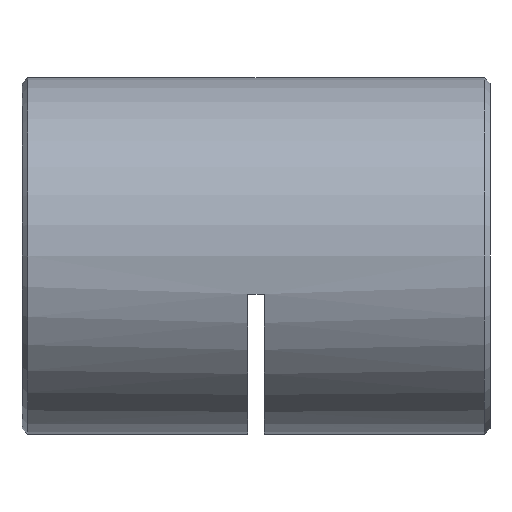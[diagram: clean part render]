
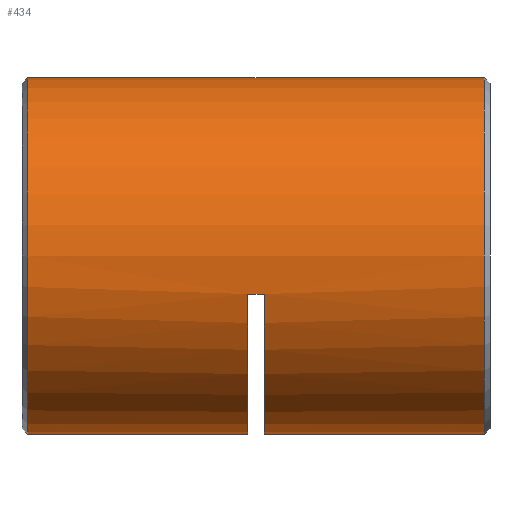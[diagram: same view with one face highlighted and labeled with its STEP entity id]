
A CAD part, left-side view. The second image highlights one B-rep face of the part: STEP entity #434.
In plain terms, the highlighted cylindrical face has radius 16 mm (diameter 32 mm), a partial arc.
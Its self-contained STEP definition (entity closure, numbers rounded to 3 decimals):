
#115 = DIRECTION ( 'NONE',  ( 0., -1., 0. ) ) ;
#170 = VERTEX_POINT ( 'NONE', #6002 ) ;
#274 = DIRECTION ( 'NONE',  ( 0., 0., 1. ) ) ;
#280 = VECTOR ( 'NONE', #640, 1000. ) ;
#434 = ADVANCED_FACE ( 'NONE', ( #3212 ), #2043, .T. ) ;
#506 = DIRECTION ( 'NONE',  ( 0., 0., -1. ) ) ;
#628 = DIRECTION ( 'NONE',  ( 0., -1., 0. ) ) ;
#640 = DIRECTION ( 'NONE',  ( 0., -1., 0. ) ) ;
#683 = CARTESIAN_POINT ( 'NONE',  ( 0., 0.75, 0. ) ) ;
#740 = EDGE_CURVE ( 'NONE', #170, #2550, #1647, .T. ) ;
#783 = VERTEX_POINT ( 'NONE', #2583 ) ;
#797 = VERTEX_POINT ( 'NONE', #3119 ) ;
#883 = CIRCLE ( 'NONE', #4217, 16. ) ;
#947 = EDGE_LOOP ( 'NONE', ( #3345, #3898, #1323, #1387, #2945, #4787, #6155, #2763 ) ) ;
#956 = CARTESIAN_POINT ( 'NONE',  ( 0., 22., -16. ) ) ;
#1109 = VERTEX_POINT ( 'NONE', #5745 ) ;
#1119 = DIRECTION ( 'NONE',  ( 0., -1., 0. ) ) ;
#1291 = EDGE_CURVE ( 'NONE', #6088, #2103, #883, .T. ) ;
#1323 = ORIENTED_EDGE ( 'NONE', *, *, #740, .T. ) ;
#1387 = ORIENTED_EDGE ( 'NONE', *, *, #1589, .F. ) ;
#1589 = EDGE_CURVE ( 'NONE', #1109, #2550, #2746, .T. ) ;
#1647 = LINE ( 'NONE', #4848, #4209 ) ;
#1660 = CARTESIAN_POINT ( 'NONE',  ( 0., 42.5, 16. ) ) ;
#1770 = CARTESIAN_POINT ( 'NONE',  ( 0., 41.75, 0. ) ) ;
#1890 = AXIS2_PLACEMENT_3D ( 'NONE', #1770, #4225, #2913 ) ;
#1900 = EDGE_CURVE ( 'NONE', #5733, #170, #3036, .T. ) ;
#1948 = DIRECTION ( 'NONE',  ( 0., -1., 0. ) ) ;
#2043 = CYLINDRICAL_SURFACE ( 'NONE', #5322, 16. ) ;
#2103 = VERTEX_POINT ( 'NONE', #4070 ) ;
#2465 = CARTESIAN_POINT ( 'NONE',  ( 0., 42.5, 0. ) ) ;
#2550 = VERTEX_POINT ( 'NONE', #956 ) ;
#2583 = CARTESIAN_POINT ( 'NONE',  ( 0., 0.75, 16. ) ) ;
#2644 = CARTESIAN_POINT ( 'NONE',  ( 0., 20.5, 0. ) ) ;
#2723 = LINE ( 'NONE', #5406, #280 ) ;
#2746 = CIRCLE ( 'NONE', #3093, 16. ) ;
#2763 = ORIENTED_EDGE ( 'NONE', *, *, #4135, .T. ) ;
#2768 = CARTESIAN_POINT ( 'NONE',  ( -15.632, 20.5, -3.413 ) ) ;
#2913 = DIRECTION ( 'NONE',  ( 0., 0., -1. ) ) ;
#2945 = ORIENTED_EDGE ( 'NONE', *, *, #3436, .T. ) ;
#3036 = CIRCLE ( 'NONE', #1890, 16. ) ;
#3056 = CARTESIAN_POINT ( 'NONE',  ( 0., 22., 0. ) ) ;
#3093 = AXIS2_PLACEMENT_3D ( 'NONE', #3056, #628, #5785 ) ;
#3119 = CARTESIAN_POINT ( 'NONE',  ( 0., 0.75, -16. ) ) ;
#3166 = DIRECTION ( 'NONE',  ( 0., -1., 0. ) ) ;
#3212 = FACE_OUTER_BOUND ( 'NONE', #947, .T. ) ;
#3275 = CARTESIAN_POINT ( 'NONE',  ( 0., 41.75, 16. ) ) ;
#3345 = ORIENTED_EDGE ( 'NONE', *, *, #4307, .F. ) ;
#3436 = EDGE_CURVE ( 'NONE', #1109, #6088, #5216, .T. ) ;
#3540 = VECTOR ( 'NONE', #1948, 1000. ) ;
#3568 = EDGE_CURVE ( 'NONE', #2103, #797, #2723, .T. ) ;
#3614 = CIRCLE ( 'NONE', #4857, 16. ) ;
#3627 = DIRECTION ( 'NONE',  ( 0., 0., -1. ) ) ;
#3898 = ORIENTED_EDGE ( 'NONE', *, *, #1900, .T. ) ;
#4070 = CARTESIAN_POINT ( 'NONE',  ( 0., 20.5, -16. ) ) ;
#4135 = EDGE_CURVE ( 'NONE', #797, #783, #3614, .T. ) ;
#4177 = LINE ( 'NONE', #1660, #4378 ) ;
#4209 = VECTOR ( 'NONE', #115, 1000. ) ;
#4217 = AXIS2_PLACEMENT_3D ( 'NONE', #2644, #1119, #3627 ) ;
#4225 = DIRECTION ( 'NONE',  ( 0., -1., 0. ) ) ;
#4307 = EDGE_CURVE ( 'NONE', #5733, #783, #4177, .T. ) ;
#4378 = VECTOR ( 'NONE', #3166, 1000. ) ;
#4392 = DIRECTION ( 'NONE',  ( 0., -1., 0. ) ) ;
#4509 = DIRECTION ( 'NONE',  ( 0., 1., 0. ) ) ;
#4787 = ORIENTED_EDGE ( 'NONE', *, *, #1291, .T. ) ;
#4848 = CARTESIAN_POINT ( 'NONE',  ( 0., 42.5, -16. ) ) ;
#4857 = AXIS2_PLACEMENT_3D ( 'NONE', #683, #4509, #274 ) ;
#5216 = LINE ( 'NONE', #5774, #3540 ) ;
#5322 = AXIS2_PLACEMENT_3D ( 'NONE', #2465, #4392, #506 ) ;
#5406 = CARTESIAN_POINT ( 'NONE',  ( 0., 42.5, -16. ) ) ;
#5733 = VERTEX_POINT ( 'NONE', #3275 ) ;
#5745 = CARTESIAN_POINT ( 'NONE',  ( -15.632, 22., -3.413 ) ) ;
#5774 = CARTESIAN_POINT ( 'NONE',  ( -15.632, 21.25, -3.413 ) ) ;
#5785 = DIRECTION ( 'NONE',  ( 0., 0., -1. ) ) ;
#6002 = CARTESIAN_POINT ( 'NONE',  ( 0., 41.75, -16. ) ) ;
#6088 = VERTEX_POINT ( 'NONE', #2768 ) ;
#6155 = ORIENTED_EDGE ( 'NONE', *, *, #3568, .T. ) ;
